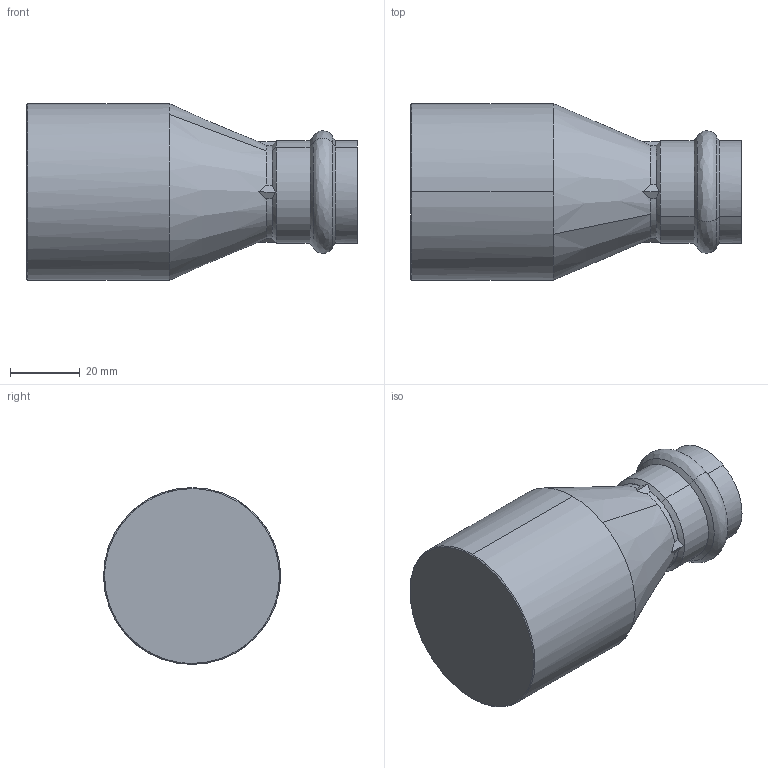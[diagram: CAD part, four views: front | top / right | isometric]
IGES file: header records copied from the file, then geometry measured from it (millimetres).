
Start section: 3D InterOp IGES (Version 25 0 1), Spatial Corp. Copyright (c) 1999-2007.
Global section: file name: pim0004352.igs; native system: Spatial Corp.; preprocessor: 3D InterOp ACIS/IGES; author: Cad-Pim; organization: TransMagic, Inc.; date: 20150430.124615; units: millimetre
Bounding box: 95 x 50.74 x 50.74 mm (x, y, z)
Volume: 124298.7 mm3; surface area: 17543.1 mm2
Topology: 1 solids, 1 shells, 39 faces, 109 edges, 73 vertices
Faces by surface type: bspline 19, cylinder 10, cone 10
